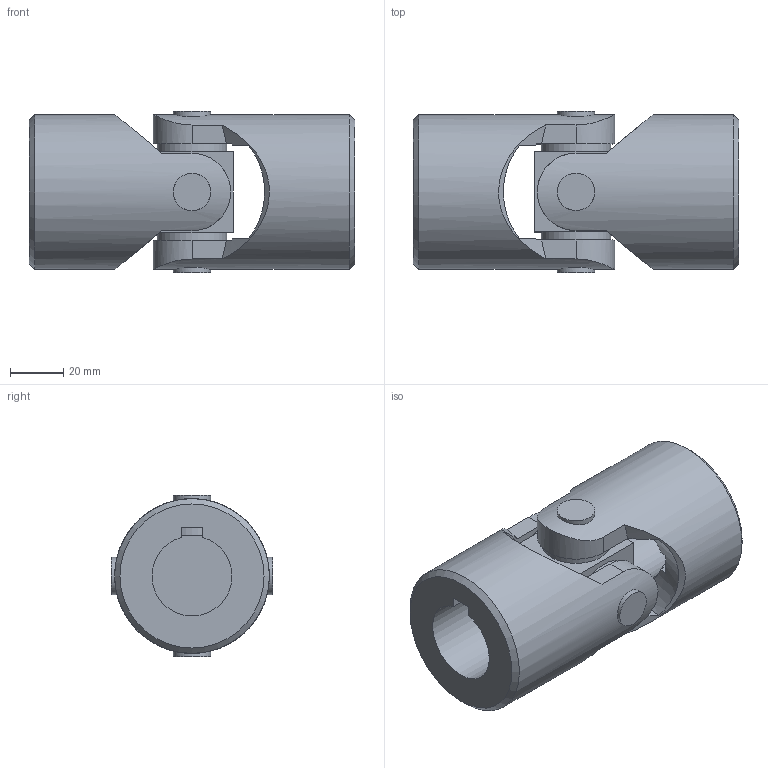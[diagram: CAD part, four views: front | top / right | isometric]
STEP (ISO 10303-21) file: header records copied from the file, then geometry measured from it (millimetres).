
FILE_DESCRIPTION(/* description */ (''),/* implementation_level */ '2;1');
FILE_NAME(/* name */ '\\SRV2016\societa\Stefano\Disegni 3D\0Catalogo 3D\13Singoli X\Ø58_6X_SX0S302C.stp',/* time_stamp */ '2023-05-12T16:14:20+02:00',/* author */ ('acquisti'),/* organization */ (''),/* preprocessor_version */ 'ST-DEVELOPER v15.6',/* originating_system */ 'Autodesk Inventor 2015',/* authorisation */ '');
FILE_SCHEMA (('AUTOMOTIVE_DESIGN { 1 0 10303 214 3 1 1 }'));
Length unit declared in the file: millimetre
Products named in the file (3): 6X SFE; 6X MOC; Ø58_6X_SX0S3000
Assembly tree (3 placements, depth 2):
  Ø58_6X_SX0S3000
    6X SFE
    6X MOC  x2
Bounding box: 122 x 60.5 x 60.5 mm (x, y, z)
Volume: 212499.6 mm3; surface area: 44853.1 mm2
Topology: 3 solids, 3 shells, 70 faces, 182 edges, 124 vertices
Faces by surface type: plane 38, cylinder 18, cone 12, torus 2
Full cylindrical faces by diameter (mm): 14 x4, 26 x4, 58 x2
Entity records: 1453 total; most frequent: CARTESIAN_POINT 474, DIRECTION 187, ORIENTED_EDGE 182, EDGE_CURVE 91, AXIS2_PLACEMENT_3D 77, VERTEX_POINT 67, EDGE_LOOP 58, FACE_OUTER_BOUND 42
